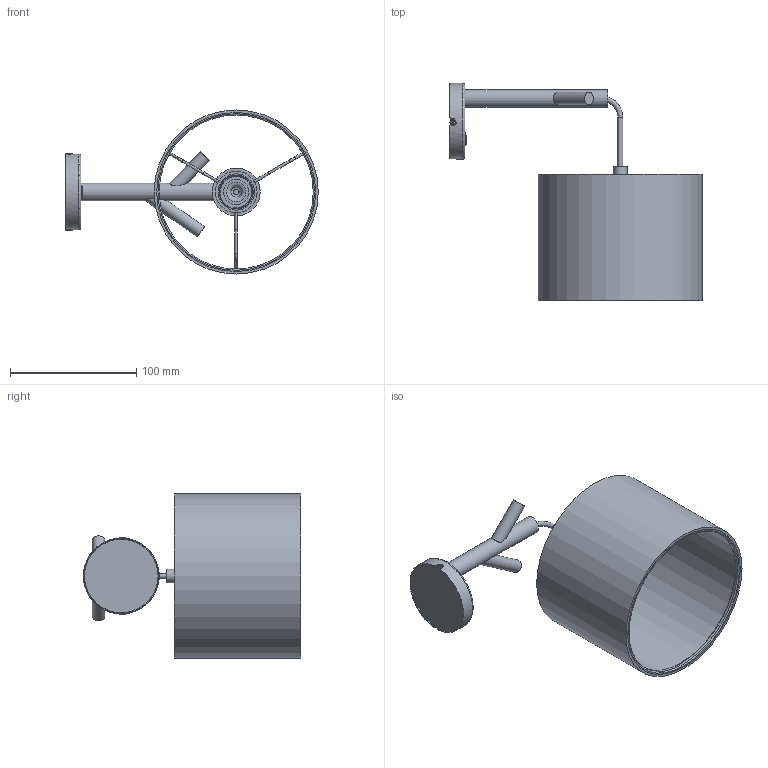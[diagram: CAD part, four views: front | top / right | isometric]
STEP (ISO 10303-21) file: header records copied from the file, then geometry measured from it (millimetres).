
FILE_DESCRIPTION(/* description */ (''),/* implementation_level */ '2;1');
FILE_NAME(/* name */ 'C:/Users/kubaw/OneDrive/Pulpit/Nowy folder (3)/6552_ALBERO WHITE v6.step',/* time_stamp */ '2021-12-11T09:32:12+01:00',/* author */ (''),/* organization */ (''),/* preprocessor_version */ 'ST-DEVELOPER v18.1',/* originating_system */ 'Autodesk Translation Framework v10.10.0.1391',/* authorisation */ '');
FILE_SCHEMA (('AUTOMOTIVE_DESIGN { 1 0 10303 214 3 1 1 }'));
Length unit declared in the file: millimetre
Products named in the file (5): 6552_ALBERO WHITE; ALBERO_PUSZKA v2; ŚRUBA LAGOS v1; ŚRUBA LAGOS v1(Mirror); MOCOWANIE_ALBERO
Assembly tree (4 placements, depth 3):
  6552_ALBERO WHITE
    ALBERO_PUSZKA v2
      ŚRUBA LAGOS v1
      ŚRUBA LAGOS v1(Mirror)
    MOCOWANIE_ALBERO
Bounding box: 200 x 172.05 x 130 mm (x, y, z)
Volume: 158805.5 mm3; surface area: 128150.4 mm2
Topology: 28 solids, 28 shells, 185 faces, 370 edges, 249 vertices
Faces by surface type: plane 93, cylinder 70, torus 12, bspline 10
Full cylindrical faces by diameter (mm): 2 x9, 3 x2, 4 x2, 4.8 x2, 5.68 x1, 7 x1, 7.68 x1, 9 x1, 9.12 x1, 10 x2, 10.32 x1, 10.8 x1, 14 x1, 19.84 x1, 24.929 x10, 26.88 x1, 28.8 x3, 32 x1, 33 x1, 33.12 x1, 38 x1, 58.2 x1, 58.8 x1, 60 x1, 122 x2, 126 x3, 130 x1
Entity records: 11081 total; most frequent: CARTESIAN_POINT 7052, DIRECTION 812, ORIENTED_EDGE 740, EDGE_CURVE 370, AXIS2_PLACEMENT_3D 341, VERTEX_POINT 249, EDGE_LOOP 205, FACE_OUTER_BOUND 185
